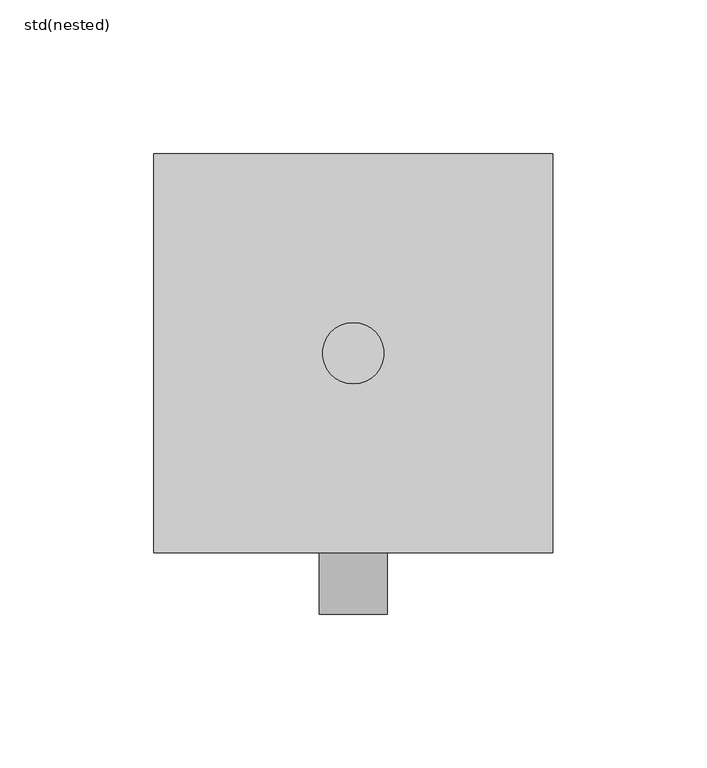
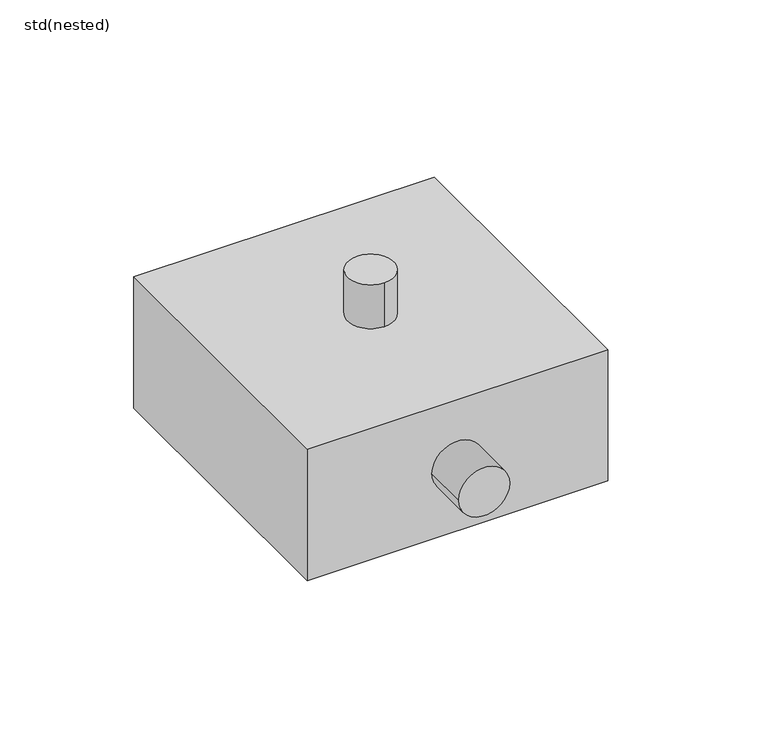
"""IFC4 building model written with IfcOpenShell, lengths in millimetres: proxy geometry, ZZZ_do not use_CD_WPB_remote control_ACO : std(nested)."""

from ifc_helpers import new_model, si_unit, point, frame, frame_2d, origin, origin_with_axes, origin_2d, place, context, project, spatial, polyline, circle_curve, trimmed, segment, composite_curve, outline, extrude, source, transform, mapped, element, save


def std_nested_7b1f1c58(model_context):
    return source(origin(), model_context, "Body", "SweptSolid", [
        extrude(outline(composite_curve([segment(trimmed(circle_curve(origin_2d(), 10.0), [point((0.0, 10.0))], [point((0.0, -10.0))], False, "CARTESIAN"), True, "CONTINUOUS"), segment(trimmed(circle_curve(origin_2d(), 10.0), [point((0.0, -10.0))], [point((0.0, 10.0))], False, "CARTESIAN"), True, "CONTINUOUS")], self_intersect=False)), frame((0.0, 0.0, 60.0), z_axis=(0.0, 0.0, 1.0), x_axis=(1.0, 0.0, 0.0)), (0.0, 0.0, 1.0), 20.0),
        extrude(outline(composite_curve([segment(trimmed(circle_curve(frame_2d((30.0, 0.0)), 11.0), [point((30.0, -11.0))], [point((30.0, 11.0))], False, "CARTESIAN"), True, "CONTINUOUS"), segment(trimmed(circle_curve(frame_2d((30.0, 0.0)), 11.0), [point((30.0, 11.0))], [point((30.0, -11.0))], False, "CARTESIAN"), True, "CONTINUOUS")], self_intersect=False)), frame((0.0, -85.0, 0.0), z_axis=(0.0, 1.0, 0.0), x_axis=(0.0, 0.0, 1.0)), (0.0, 0.0, 1.0), 20.0),
        extrude(outline(polyline([(65.0, 65.0), (65.0, -65.0), (-65.0, -65.0), (-65.0, 65.0), (65.0, 65.0)])), origin_with_axes(), (0.0, 0.0, 1.0), 60.0),
    ])


if __name__ == "__main__":
    model = new_model("IFC4")
    model_context = context("Model", 3, world=origin())
    ifc_project = project(units=[si_unit("LENGTHUNIT", "METRE", prefix="MILLI")], contexts=[model_context])
    site = spatial("IfcSite", under=ifc_project)
    building = spatial("IfcBuilding", under=site)
    placement = place(None, origin())
    std_nested_shape = std_nested_7b1f1c58(model_context)
    element("IfcBuildingElementProxy", 1, Name="ZZZ_do not use_CD_WPB_remote control_ACO : std(nested)", ObjectType="ZZZ_do not use_CD_WPB_remote control_ACO : std(nested)", at=placement, inside=building, context=model_context, shape_type="MappedRepresentation", body=[
        mapped(std_nested_shape, transform((0.0, 0.0, 0.0), x_axis=(1.0, 0.0, 0.0), y_axis=(0.0, 1.0, 0.0), z_axis=(0.0, 0.0, 1.0))),
    ])
    save(model, "model.ifc")
